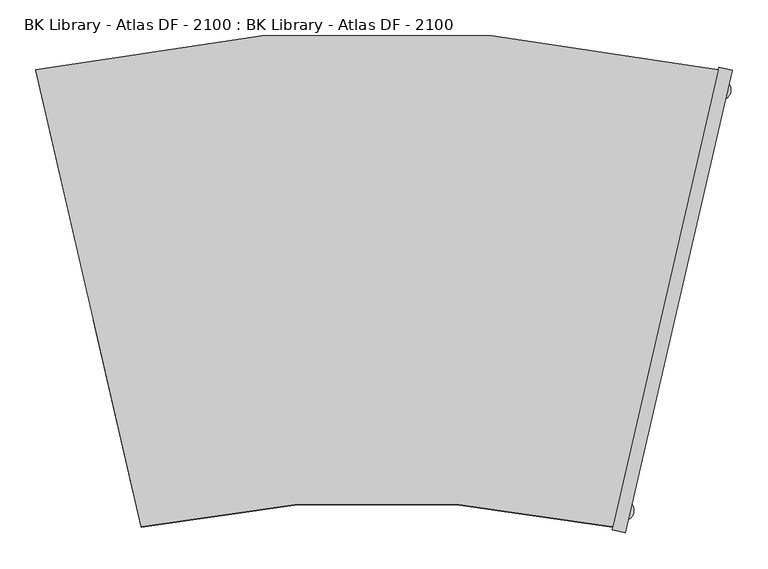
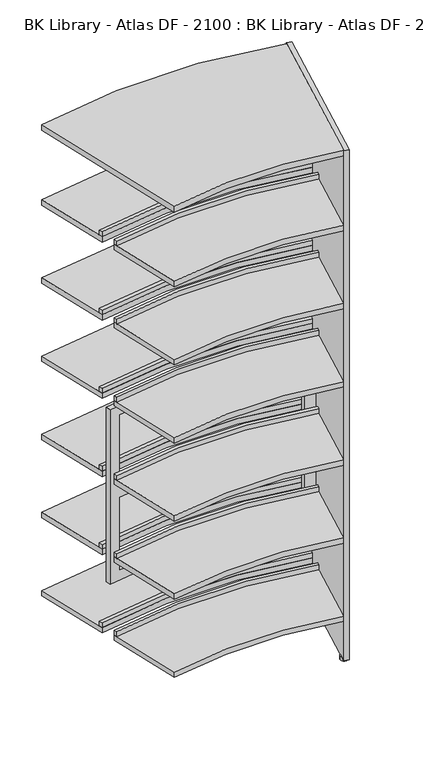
"""IFC4 building model written with IfcOpenShell, lengths in millimetres: furniture geometry, BK Library - Atlas DF - 2100 : BK Library - Atlas DF - 2100."""

from ifc_helpers import new_model, si_unit, point, frame, frame_2d, origin, origin_with_axes, place, context, project, spatial, polyline, circle_curve, trimmed, segment, composite_curve, outline, extrude, source, transform, mapped, element, save
from ifc_brep_helpers import plane_surface, cylinder_surface, revolved_surface, advanced_brep


def bk_library_atlas_df_2100_bk_library_atlas_df_2100_e4d77250(model_context):
    return source(origin(), model_context, "Body", "SolidModel", [
        extrude(outline(composite_curve([segment(trimmed(circle_curve(frame_2d((0.0, -1840.4430404)), 1557.6392973), [point((327.6944521, -317.663829))], [point((-327.6944521, -317.663829))], True, "CARTESIAN"), True, "CONTINUOUS"), segment(polyline([(-327.6944521, -317.663829), (-394.2058088, -29.2269986)]), True, "CONTINUOUS"), segment(trimmed(circle_curve(frame_2d((0.0, -1785.1487517)), 1799.627579), [point((-394.2058088, -29.2269986))], [point((394.2058088, -29.2269986))], False, "CARTESIAN"), True, "CONTINUOUS"), segment(polyline([(394.2058088, -29.2269986), (327.6944521, -317.663829)]), True, "CONTINUOUS")], self_intersect=False)), frame((0.0, 0.0, 1771.6999998), z_axis=(0.0, 0.0, 1.0), x_axis=(1.0, 0.0, 0.0)), (0.0, 0.0, 1.0), 22.0),
        extrude(outline(composite_curve([segment(trimmed(circle_curve(frame_2d((0.0, -1777.8812307)), 2148.52767), [point((-474.1962162, 317.663829))], [point((474.1962162, 317.663829))], False, "CARTESIAN"), True, "CONTINUOUS"), segment(polyline([(474.1962162, 317.663829), (407.6853202, 29.2289965)]), True, "CONTINUOUS"), segment(trimmed(circle_curve(frame_2d((0.0, -1798.2835703)), 1872.4341116), [point((407.6853202, 29.2289965))], [point((-407.6853202, 29.2289965))], True, "CARTESIAN"), True, "CONTINUOUS"), segment(polyline([(-407.6853202, 29.2289965), (-474.1962162, 317.663829)]), True, "CONTINUOUS")], self_intersect=False)), frame((0.0, 0.0, 1771.6999998), z_axis=(0.0, 0.0, 1.0), x_axis=(1.0, 0.0, 0.0)), (0.0, 0.0, 1.0), 22.0),
        extrude(outline(composite_curve([segment(trimmed(circle_curve(frame_2d((0.0, -1785.1487517)), 1799.627579), [point((-394.2058088, -29.2269986))], [point((394.2058088, -29.2269986))], False, "CARTESIAN"), True, "CONTINUOUS"), segment(polyline([(394.2058088, -29.2269986), (391.2848087, -41.8943694)]), True, "CONTINUOUS"), segment(trimmed(circle_curve(frame_2d((0.0, -1790.5831955)), 1791.9309172), [point((391.2848087, -41.8943694))], [point((-391.2848087, -41.8943694))], True, "CARTESIAN"), True, "CONTINUOUS"), segment(polyline([(-391.2848087, -41.8943694), (-394.2058088, -29.2269986)]), True, "CONTINUOUS")], self_intersect=False)), frame((0.0, 0.0, 1793.6999998), z_axis=(0.0, 0.0, 1.0), x_axis=(1.0, 0.0, 0.0)), (0.0, 0.0, 1.0), 20.0),
        extrude(outline(composite_curve([segment(trimmed(circle_curve(frame_2d((0.0, -1776.6858327)), 1864.3585062), [point((-410.605951, 41.8947656))], [point((410.605951, 41.8947656))], False, "CARTESIAN"), True, "CONTINUOUS"), segment(polyline([(410.605951, 41.8947656), (407.6853202, 29.2289965)]), True, "CONTINUOUS"), segment(trimmed(circle_curve(frame_2d((0.0, -1798.2835703)), 1872.4341116), [point((407.6853202, 29.2289965))], [point((-407.6853202, 29.2289965))], True, "CARTESIAN"), True, "CONTINUOUS"), segment(polyline([(-407.6853202, 29.2289965), (-410.605951, 41.8947656)]), True, "CONTINUOUS")], self_intersect=False)), frame((0.0, 0.0, 1793.6999998), z_axis=(0.0, 0.0, 1.0), x_axis=(1.0, 0.0, 0.0)), (0.0, 0.0, 1.0), 20.0),
        extrude(outline(composite_curve([segment(trimmed(circle_curve(frame_2d((0.0, -1777.8812307)), 2148.52767), [point((-474.1962162, 317.663829))], [point((474.1962162, 317.663829))], False, "CARTESIAN"), True, "CONTINUOUS"), segment(polyline([(474.1962162, 317.663829), (327.6944521, -317.663829)]), True, "CONTINUOUS"), segment(trimmed(circle_curve(frame_2d((0.0, -1840.4430404)), 1557.6392973), [point((327.6944521, -317.663829))], [point((-327.6944521, -317.663829))], True, "CARTESIAN"), True, "CONTINUOUS"), segment(polyline([(-327.6944521, -317.663829), (-474.1962162, 317.663829)]), True, "CONTINUOUS")], self_intersect=False)), frame((0.0, 0.0, 2077.6999998), z_axis=(0.0, 0.0, 1.0), x_axis=(1.0, 0.0, 0.0)), (0.0, 0.0, 1.0), 24.0),
        advanced_brep(
        [(-403.1922937, 9.7442892, 1106.1999998), (-398.6983746, -9.7442892, 1106.1999998), (398.6983746, -9.7442892, 1106.1999998), (403.1922937, 9.7442892, 1106.1999998), (-403.1922937, 9.7442892, 391.1999998), (403.1922937, 9.7442892, 391.1999998), (398.6983746, -9.7442892, 391.1999998), (-398.6983746, -9.7442892, 391.1999998), (359.7000463, -1.6061954, 1066.1999998), (359.7000463, -1.6061954, 768.6999998), (-359.7212176, -1.6103769, 768.6999998), (-359.7212176, -1.6103769, 1066.1999998), (-359.7212176, -1.6103769, 728.6999998), (359.7000463, -1.6061954, 728.6999998), (359.7000463, -1.6061954, 431.1999998), (-359.7212176, -1.6103769, 431.1999998), (359.7000463, 18.8192746, 768.6999998), (359.7000463, 18.8192746, 1066.1999998), (-359.7212176, 18.8151191, 1066.1999998), (-359.7212176, 18.8151191, 768.6999998), (359.7000463, 18.8192746, 728.6999998), (-359.7212176, 18.8151191, 728.6999998), (-359.7212176, 18.8151191, 431.1999998), (359.7000463, 18.8192746, 431.1999998)],
        [
            (0, 1),
            (1, 2, circle_curve(frame((0.0, -1822.824997, 1106.1999998), z_axis=(0.0, 0.0, -1.0), x_axis=(1.0, 0.0, 0.0)), 1856.4002927)),
            (2, 3),
            (3, 0, circle_curve(frame((0.0, -1813.8149651, 1106.1999998), z_axis=(0.0, 0.0, 1.0), x_axis=(1.0, 0.0, 0.0)), 1867.6007014)),
            (4, 5, circle_curve(frame((0.0, -1813.8149651, 391.1999998), z_axis=(0.0, 0.0, -1.0), x_axis=(1.0, 0.0, 0.0)), 1867.6007014)),
            (5, 6),
            (6, 7, circle_curve(frame((0.0, -1822.824997, 391.1999998), z_axis=(0.0, 0.0, 1.0), x_axis=(1.0, 0.0, 0.0)), 1856.4002927)),
            (7, 4),
            (0, 4),
            (7, 1),
            (2, 6),
            (5, 3),
            (8, 9),
            (9, 10, circle_curve(frame((0.0, -1822.824997, 768.6999998), z_axis=(0.0, 0.0, 1.0), x_axis=(1.0, 0.0, 0.0)), 1856.4002927)),
            (10, 11),
            (11, 8, circle_curve(frame((0.0, -1822.824997, 1066.1999998), z_axis=(0.0, 0.0, -1.0), x_axis=(1.0, 0.0, 0.0)), 1856.4002927)),
            (12, 13, circle_curve(frame((0.0, -1822.824997, 728.6999998), z_axis=(0.0, 0.0, -1.0), x_axis=(1.0, 0.0, 0.0)), 1856.4002927)),
            (13, 14),
            (14, 15, circle_curve(frame((0.0, -1822.824997, 431.1999998), z_axis=(0.0, 0.0, 1.0), x_axis=(1.0, 0.0, 0.0)), 1856.4002927)),
            (15, 12),
            (16, 17),
            (17, 18, circle_curve(frame((0.0, -1813.8149651, 1066.1999998), z_axis=(0.0, 0.0, 1.0), x_axis=(1.0, 0.0, 0.0)), 1867.6007014)),
            (18, 19),
            (19, 16, circle_curve(frame((0.0, -1813.8149651, 768.6999998), z_axis=(0.0, 0.0, -1.0), x_axis=(1.0, 0.0, 0.0)), 1867.6007014)),
            (20, 21, circle_curve(frame((0.0, -1813.8149651, 728.6999998), z_axis=(0.0, 0.0, 1.0), x_axis=(1.0, 0.0, 0.0)), 1867.6007014)),
            (21, 22),
            (22, 23, circle_curve(frame((0.0, -1813.8149651, 431.1999998), z_axis=(0.0, 0.0, -1.0), x_axis=(1.0, 0.0, 0.0)), 1867.6007014)),
            (23, 20),
            (16, 9),
            (8, 17),
            (11, 18),
            (10, 19),
            (20, 13),
            (12, 21),
            (15, 22),
            (14, 23),
        ],
        [
            plane_surface(frame((-326.7956683, -321.5615447, 1106.1999998), z_axis=(0.0, 0.0, 1.0), x_axis=(0.224695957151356, -0.9744289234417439, 0.0))),
            plane_surface(frame((-326.7956683, -321.5615447, 391.1999998), z_axis=(0.0, 0.0, -1.0), x_axis=(-0.224695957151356, 0.9744289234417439, 0.0))),
            plane_surface(frame((-403.1922937, 9.7442892, 1106.1999998), z_axis=(-0.9744289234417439, -0.224695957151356, 0.0), x_axis=(0.0, 0.0, -1.0))),
            plane_surface(frame((398.6983746, -9.7442892, 1106.1999998), z_axis=(0.974428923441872, -0.22469595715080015, 0.0), x_axis=(0.0, 0.0, -1.0))),
            revolved_surface(polyline([(1856.4002927, -1822.824997, 391.1999998), (1856.4002927, -1822.824997, 1106.1999998)]), (0.0, -1822.824997, 391.1999998), (0.0, 0.0, -1.0)),
            cylinder_surface(frame((0.0, -1813.8149651, 391.1999998), z_axis=(0.0, 0.0, 1.0), x_axis=(1.0, 0.0, 0.0)), 1867.6007014),
            plane_surface(frame((359.7000463, -114.4923923, 768.6999998), z_axis=(-1.0, 0.0, 0.0), x_axis=(0.0, 1.0, 0.0))),
            plane_surface(frame((359.7000463, -114.4923923, 1066.1999998), z_axis=(0.0, 0.0, -1.0), x_axis=(0.0, 1.0, 0.0))),
            plane_surface(frame((-359.7212176, -114.4923923, 1066.1999998), z_axis=(1.0, 0.0, 0.0), x_axis=(0.0, 1.0, 0.0))),
            plane_surface(frame((-359.7212176, -114.4923923, 768.6999998), z_axis=(0.0, 0.0, 1.0), x_axis=(0.0, 1.0, 0.0))),
            plane_surface(frame((359.7000463, -114.4923923, 728.6999998), z_axis=(0.0, 0.0, -1.0), x_axis=(0.0, 1.0, 0.0))),
            plane_surface(frame((-359.7212176, -114.4923923, 728.6999998), z_axis=(1.0, 0.0, 0.0), x_axis=(0.0, 1.0, 0.0))),
            plane_surface(frame((-359.7212176, -114.4923923, 431.1999998), z_axis=(0.0, 0.0, 1.0), x_axis=(0.0, 1.0, 0.0))),
            plane_surface(frame((359.7000463, -114.4923923, 431.1999998), z_axis=(-1.0, 0.0, 0.0), x_axis=(0.0, 1.0, 0.0))),
        ],
        [
            (0, [[1, 2, 3, 4]]),
            (1, [[5, 6, 7, 8]]),
            (2, [[-1, 9, -8, 10]]),
            (3, [[-3, 11, -6, 12]]),
            (4, [[-2, -10, -7, -11], [13, 14, 15, 16], [17, 18, 19, 20]]),
            (5, [[-4, -12, -5, -9], [21, 22, 23, 24], [25, 26, 27, 28]]),
            (6, [[29, -13, 30, -21]]),
            (7, [[-30, -16, 31, -22]]),
            (8, [[-31, -15, 32, -23]]),
            (9, [[-29, -24, -32, -14]]),
            (10, [[33, -17, 34, -25]]),
            (11, [[-34, -20, 35, -26]]),
            (12, [[-35, -19, 36, -27]]),
            (13, [[-33, -28, -36, -18]]),
        ],
    ),
        extrude(outline(composite_curve([segment(trimmed(circle_curve(frame_2d((0.0, -1840.4430404)), 1557.6392973), [point((327.6944521, -317.663829))], [point((-327.6944521, -317.663829))], True, "CARTESIAN"), True, "CONTINUOUS"), segment(polyline([(-327.6944521, -317.663829), (-394.2058088, -29.2269986)]), True, "CONTINUOUS"), segment(trimmed(circle_curve(frame_2d((0.0, -1785.1487517)), 1799.627579), [point((-394.2058088, -29.2269986))], [point((394.2058088, -29.2269986))], False, "CARTESIAN"), True, "CONTINUOUS"), segment(polyline([(394.2058088, -29.2269986), (327.6944521, -317.663829)]), True, "CONTINUOUS")], self_intersect=False)), frame((0.0, 0.0, 171.6999998), z_axis=(0.0, 0.0, 1.0), x_axis=(1.0, 0.0, 0.0)), (0.0, 0.0, 1.0), 22.0),
        extrude(outline(composite_curve([segment(trimmed(circle_curve(frame_2d((0.0, -1777.8812307)), 2148.52767), [point((-474.1962162, 317.663829))], [point((474.1962162, 317.663829))], False, "CARTESIAN"), True, "CONTINUOUS"), segment(polyline([(474.1962162, 317.663829), (407.6853202, 29.2289965)]), True, "CONTINUOUS"), segment(trimmed(circle_curve(frame_2d((0.0, -1798.2835703)), 1872.4341116), [point((407.6853202, 29.2289965))], [point((-407.6853202, 29.2289965))], True, "CARTESIAN"), True, "CONTINUOUS"), segment(polyline([(-407.6853202, 29.2289965), (-474.1962162, 317.663829)]), True, "CONTINUOUS")], self_intersect=False)), frame((0.0, 0.0, 171.6999998), z_axis=(0.0, 0.0, 1.0), x_axis=(1.0, 0.0, 0.0)), (0.0, 0.0, 1.0), 22.0),
        extrude(outline(composite_curve([segment(trimmed(circle_curve(frame_2d((0.0, -1840.4430404)), 1557.6392973), [point((327.6944521, -317.663829))], [point((-327.6944521, -317.663829))], True, "CARTESIAN"), True, "CONTINUOUS"), segment(polyline([(-327.6944521, -317.663829), (-394.2058088, -29.2269986)]), True, "CONTINUOUS"), segment(trimmed(circle_curve(frame_2d((0.0, -1785.1487517)), 1799.627579), [point((-394.2058088, -29.2269986))], [point((394.2058088, -29.2269986))], False, "CARTESIAN"), True, "CONTINUOUS"), segment(polyline([(394.2058088, -29.2269986), (327.6944521, -317.663829)]), True, "CONTINUOUS")], self_intersect=False)), frame((0.0, 0.0, 491.6999998), z_axis=(0.0, 0.0, 1.0), x_axis=(1.0, 0.0, 0.0)), (0.0, 0.0, 1.0), 22.0),
        extrude(outline(composite_curve([segment(trimmed(circle_curve(frame_2d((0.0, -1777.8812307)), 2148.52767), [point((-474.1962162, 317.663829))], [point((474.1962162, 317.663829))], False, "CARTESIAN"), True, "CONTINUOUS"), segment(polyline([(474.1962162, 317.663829), (407.6853202, 29.2289965)]), True, "CONTINUOUS"), segment(trimmed(circle_curve(frame_2d((0.0, -1798.2835703)), 1872.4341116), [point((407.6853202, 29.2289965))], [point((-407.6853202, 29.2289965))], True, "CARTESIAN"), True, "CONTINUOUS"), segment(polyline([(-407.6853202, 29.2289965), (-474.1962162, 317.663829)]), True, "CONTINUOUS")], self_intersect=False)), frame((0.0, 0.0, 491.6999998), z_axis=(0.0, 0.0, 1.0), x_axis=(1.0, 0.0, 0.0)), (0.0, 0.0, 1.0), 22.0),
        extrude(outline(composite_curve([segment(trimmed(circle_curve(frame_2d((0.0, -1840.4430404)), 1557.6392973), [point((327.6944521, -317.663829))], [point((-327.6944521, -317.663829))], True, "CARTESIAN"), True, "CONTINUOUS"), segment(polyline([(-327.6944521, -317.663829), (-394.2058088, -29.2269986)]), True, "CONTINUOUS"), segment(trimmed(circle_curve(frame_2d((0.0, -1785.1487517)), 1799.627579), [point((-394.2058088, -29.2269986))], [point((394.2058088, -29.2269986))], False, "CARTESIAN"), True, "CONTINUOUS"), segment(polyline([(394.2058088, -29.2269986), (327.6944521, -317.663829)]), True, "CONTINUOUS")], self_intersect=False)), frame((0.0, 0.0, 811.6999998), z_axis=(0.0, 0.0, 1.0), x_axis=(1.0, 0.0, 0.0)), (0.0, 0.0, 1.0), 22.0),
        extrude(outline(composite_curve([segment(trimmed(circle_curve(frame_2d((0.0, -1777.8812307)), 2148.52767), [point((-474.1962162, 317.663829))], [point((474.1962162, 317.663829))], False, "CARTESIAN"), True, "CONTINUOUS"), segment(polyline([(474.1962162, 317.663829), (407.6853202, 29.2289965)]), True, "CONTINUOUS"), segment(trimmed(circle_curve(frame_2d((0.0, -1798.2835703)), 1872.4341116), [point((407.6853202, 29.2289965))], [point((-407.6853202, 29.2289965))], True, "CARTESIAN"), True, "CONTINUOUS"), segment(polyline([(-407.6853202, 29.2289965), (-474.1962162, 317.663829)]), True, "CONTINUOUS")], self_intersect=False)), frame((0.0, 0.0, 811.6999998), z_axis=(0.0, 0.0, 1.0), x_axis=(1.0, 0.0, 0.0)), (0.0, 0.0, 1.0), 22.0),
        extrude(outline(composite_curve([segment(trimmed(circle_curve(frame_2d((0.0, -1840.4430404)), 1557.6392973), [point((327.6944521, -317.663829))], [point((-327.6944521, -317.663829))], True, "CARTESIAN"), True, "CONTINUOUS"), segment(polyline([(-327.6944521, -317.663829), (-394.2058088, -29.2269986)]), True, "CONTINUOUS"), segment(trimmed(circle_curve(frame_2d((0.0, -1785.1487517)), 1799.627579), [point((-394.2058088, -29.2269986))], [point((394.2058088, -29.2269986))], False, "CARTESIAN"), True, "CONTINUOUS"), segment(polyline([(394.2058088, -29.2269986), (327.6944521, -317.663829)]), True, "CONTINUOUS")], self_intersect=False)), frame((0.0, 0.0, 1131.6999998), z_axis=(0.0, 0.0, 1.0), x_axis=(1.0, 0.0, 0.0)), (0.0, 0.0, 1.0), 22.0),
        extrude(outline(composite_curve([segment(trimmed(circle_curve(frame_2d((0.0, -1777.8812307)), 2148.52767), [point((-474.1962162, 317.663829))], [point((474.1962162, 317.663829))], False, "CARTESIAN"), True, "CONTINUOUS"), segment(polyline([(474.1962162, 317.663829), (407.6853202, 29.2289965)]), True, "CONTINUOUS"), segment(trimmed(circle_curve(frame_2d((0.0, -1798.2835703)), 1872.4341116), [point((407.6853202, 29.2289965))], [point((-407.6853202, 29.2289965))], True, "CARTESIAN"), True, "CONTINUOUS"), segment(polyline([(-407.6853202, 29.2289965), (-474.1962162, 317.663829)]), True, "CONTINUOUS")], self_intersect=False)), frame((0.0, 0.0, 1131.6999998), z_axis=(0.0, 0.0, 1.0), x_axis=(1.0, 0.0, 0.0)), (0.0, 0.0, 1.0), 22.0),
        extrude(outline(composite_curve([segment(trimmed(circle_curve(frame_2d((0.0, -1840.4430404)), 1557.6392973), [point((327.6944521, -317.663829))], [point((-327.6944521, -317.663829))], True, "CARTESIAN"), True, "CONTINUOUS"), segment(polyline([(-327.6944521, -317.663829), (-394.2058088, -29.2269986)]), True, "CONTINUOUS"), segment(trimmed(circle_curve(frame_2d((0.0, -1785.1487517)), 1799.627579), [point((-394.2058088, -29.2269986))], [point((394.2058088, -29.2269986))], False, "CARTESIAN"), True, "CONTINUOUS"), segment(polyline([(394.2058088, -29.2269986), (327.6944521, -317.663829)]), True, "CONTINUOUS")], self_intersect=False)), frame((0.0, 0.0, 1451.6999998), z_axis=(0.0, 0.0, 1.0), x_axis=(1.0, 0.0, 0.0)), (0.0, 0.0, 1.0), 22.0),
        extrude(outline(composite_curve([segment(trimmed(circle_curve(frame_2d((0.0, -1777.8812307)), 2148.52767), [point((-474.1962162, 317.663829))], [point((474.1962162, 317.663829))], False, "CARTESIAN"), True, "CONTINUOUS"), segment(polyline([(474.1962162, 317.663829), (407.6853202, 29.2289965)]), True, "CONTINUOUS"), segment(trimmed(circle_curve(frame_2d((0.0, -1798.2835703)), 1872.4341116), [point((407.6853202, 29.2289965))], [point((-407.6853202, 29.2289965))], True, "CARTESIAN"), True, "CONTINUOUS"), segment(polyline([(-407.6853202, 29.2289965), (-474.1962162, 317.663829)]), True, "CONTINUOUS")], self_intersect=False)), frame((0.0, 0.0, 1451.6999998), z_axis=(0.0, 0.0, 1.0), x_axis=(1.0, 0.0, 0.0)), (0.0, 0.0, 1.0), 22.0),
        extrude(outline(composite_curve([segment(trimmed(circle_curve(frame_2d((0.0, -1785.1487517)), 1799.627579), [point((-394.2058088, -29.2269986))], [point((394.2058088, -29.2269986))], False, "CARTESIAN"), True, "CONTINUOUS"), segment(polyline([(394.2058088, -29.2269986), (391.2848087, -41.8943694)]), True, "CONTINUOUS"), segment(trimmed(circle_curve(frame_2d((0.0, -1790.5831955)), 1791.9309172), [point((391.2848087, -41.8943694))], [point((-391.2848087, -41.8943694))], True, "CARTESIAN"), True, "CONTINUOUS"), segment(polyline([(-391.2848087, -41.8943694), (-394.2058088, -29.2269986)]), True, "CONTINUOUS")], self_intersect=False)), frame((0.0, 0.0, 193.6999998), z_axis=(0.0, 0.0, 1.0), x_axis=(1.0, 0.0, 0.0)), (0.0, 0.0, 1.0), 20.0),
        extrude(outline(composite_curve([segment(trimmed(circle_curve(frame_2d((0.0, -1776.6858327)), 1864.3585062), [point((-410.605951, 41.8947656))], [point((410.605951, 41.8947656))], False, "CARTESIAN"), True, "CONTINUOUS"), segment(polyline([(410.605951, 41.8947656), (407.6853202, 29.2289965)]), True, "CONTINUOUS"), segment(trimmed(circle_curve(frame_2d((0.0, -1798.2835703)), 1872.4341116), [point((407.6853202, 29.2289965))], [point((-407.6853202, 29.2289965))], True, "CARTESIAN"), True, "CONTINUOUS"), segment(polyline([(-407.6853202, 29.2289965), (-410.605951, 41.8947656)]), True, "CONTINUOUS")], self_intersect=False)), frame((0.0, 0.0, 193.6999998), z_axis=(0.0, 0.0, 1.0), x_axis=(1.0, 0.0, 0.0)), (0.0, 0.0, 1.0), 20.0),
        extrude(outline(composite_curve([segment(trimmed(circle_curve(frame_2d((0.0, -1785.1487517)), 1799.627579), [point((-394.2058088, -29.2269986))], [point((394.2058088, -29.2269986))], False, "CARTESIAN"), True, "CONTINUOUS"), segment(polyline([(394.2058088, -29.2269986), (391.2848087, -41.8943694)]), True, "CONTINUOUS"), segment(trimmed(circle_curve(frame_2d((0.0, -1790.5831955)), 1791.9309172), [point((391.2848087, -41.8943694))], [point((-391.2848087, -41.8943694))], True, "CARTESIAN"), True, "CONTINUOUS"), segment(polyline([(-391.2848087, -41.8943694), (-394.2058088, -29.2269986)]), True, "CONTINUOUS")], self_intersect=False)), frame((0.0, 0.0, 513.6999998), z_axis=(0.0, 0.0, 1.0), x_axis=(1.0, 0.0, 0.0)), (0.0, 0.0, 1.0), 20.0),
        extrude(outline(composite_curve([segment(trimmed(circle_curve(frame_2d((0.0, -1776.6858327)), 1864.3585062), [point((-410.605951, 41.8947656))], [point((410.605951, 41.8947656))], False, "CARTESIAN"), True, "CONTINUOUS"), segment(polyline([(410.605951, 41.8947656), (407.6853202, 29.2289965)]), True, "CONTINUOUS"), segment(trimmed(circle_curve(frame_2d((0.0, -1798.2835703)), 1872.4341116), [point((407.6853202, 29.2289965))], [point((-407.6853202, 29.2289965))], True, "CARTESIAN"), True, "CONTINUOUS"), segment(polyline([(-407.6853202, 29.2289965), (-410.605951, 41.8947656)]), True, "CONTINUOUS")], self_intersect=False)), frame((0.0, 0.0, 513.6999998), z_axis=(0.0, 0.0, 1.0), x_axis=(1.0, 0.0, 0.0)), (0.0, 0.0, 1.0), 20.0),
        extrude(outline(composite_curve([segment(trimmed(circle_curve(frame_2d((0.0, -1785.1487517)), 1799.627579), [point((-394.2058088, -29.2269986))], [point((394.2058088, -29.2269986))], False, "CARTESIAN"), True, "CONTINUOUS"), segment(polyline([(394.2058088, -29.2269986), (391.2848087, -41.8943694)]), True, "CONTINUOUS"), segment(trimmed(circle_curve(frame_2d((0.0, -1790.5831955)), 1791.9309172), [point((391.2848087, -41.8943694))], [point((-391.2848087, -41.8943694))], True, "CARTESIAN"), True, "CONTINUOUS"), segment(polyline([(-391.2848087, -41.8943694), (-394.2058088, -29.2269986)]), True, "CONTINUOUS")], self_intersect=False)), frame((0.0, 0.0, 833.6999998), z_axis=(0.0, 0.0, 1.0), x_axis=(1.0, 0.0, 0.0)), (0.0, 0.0, 1.0), 20.0),
        extrude(outline(composite_curve([segment(trimmed(circle_curve(frame_2d((0.0, -1776.6858327)), 1864.3585062), [point((-410.605951, 41.8947656))], [point((410.605951, 41.8947656))], False, "CARTESIAN"), True, "CONTINUOUS"), segment(polyline([(410.605951, 41.8947656), (407.6853202, 29.2289965)]), True, "CONTINUOUS"), segment(trimmed(circle_curve(frame_2d((0.0, -1798.2835703)), 1872.4341116), [point((407.6853202, 29.2289965))], [point((-407.6853202, 29.2289965))], True, "CARTESIAN"), True, "CONTINUOUS"), segment(polyline([(-407.6853202, 29.2289965), (-410.605951, 41.8947656)]), True, "CONTINUOUS")], self_intersect=False)), frame((0.0, 0.0, 833.6999998), z_axis=(0.0, 0.0, 1.0), x_axis=(1.0, 0.0, 0.0)), (0.0, 0.0, 1.0), 20.0),
        extrude(outline(composite_curve([segment(trimmed(circle_curve(frame_2d((0.0, -1785.1487517)), 1799.627579), [point((-394.2058088, -29.2269986))], [point((394.2058088, -29.2269986))], False, "CARTESIAN"), True, "CONTINUOUS"), segment(polyline([(394.2058088, -29.2269986), (391.2848087, -41.8943694)]), True, "CONTINUOUS"), segment(trimmed(circle_curve(frame_2d((0.0, -1790.5831955)), 1791.9309172), [point((391.2848087, -41.8943694))], [point((-391.2848087, -41.8943694))], True, "CARTESIAN"), True, "CONTINUOUS"), segment(polyline([(-391.2848087, -41.8943694), (-394.2058088, -29.2269986)]), True, "CONTINUOUS")], self_intersect=False)), frame((0.0, 0.0, 1153.6999998), z_axis=(0.0, 0.0, 1.0), x_axis=(1.0, 0.0, 0.0)), (0.0, 0.0, 1.0), 20.0),
        extrude(outline(composite_curve([segment(trimmed(circle_curve(frame_2d((0.0, -1776.6858327)), 1864.3585062), [point((-410.605951, 41.8947656))], [point((410.605951, 41.8947656))], False, "CARTESIAN"), True, "CONTINUOUS"), segment(polyline([(410.605951, 41.8947656), (407.6853202, 29.2289965)]), True, "CONTINUOUS"), segment(trimmed(circle_curve(frame_2d((0.0, -1798.2835703)), 1872.4341116), [point((407.6853202, 29.2289965))], [point((-407.6853202, 29.2289965))], True, "CARTESIAN"), True, "CONTINUOUS"), segment(polyline([(-407.6853202, 29.2289965), (-410.605951, 41.8947656)]), True, "CONTINUOUS")], self_intersect=False)), frame((0.0, 0.0, 1153.6999998), z_axis=(0.0, 0.0, 1.0), x_axis=(1.0, 0.0, 0.0)), (0.0, 0.0, 1.0), 20.0),
        extrude(outline(composite_curve([segment(trimmed(circle_curve(frame_2d((0.0, -1785.1487517)), 1799.627579), [point((-394.2058088, -29.2269986))], [point((394.2058088, -29.2269986))], False, "CARTESIAN"), True, "CONTINUOUS"), segment(polyline([(394.2058088, -29.2269986), (391.2848087, -41.8943694)]), True, "CONTINUOUS"), segment(trimmed(circle_curve(frame_2d((0.0, -1790.5831955)), 1791.9309172), [point((391.2848087, -41.8943694))], [point((-391.2848087, -41.8943694))], True, "CARTESIAN"), True, "CONTINUOUS"), segment(polyline([(-391.2848087, -41.8943694), (-394.2058088, -29.2269986)]), True, "CONTINUOUS")], self_intersect=False)), frame((0.0, 0.0, 1473.6999998), z_axis=(0.0, 0.0, 1.0), x_axis=(1.0, 0.0, 0.0)), (0.0, 0.0, 1.0), 20.0),
        extrude(outline(composite_curve([segment(trimmed(circle_curve(frame_2d((0.0, -1776.6858327)), 1864.3585062), [point((-410.605951, 41.8947656))], [point((410.605951, 41.8947656))], False, "CARTESIAN"), True, "CONTINUOUS"), segment(polyline([(410.605951, 41.8947656), (407.6853202, 29.2289965)]), True, "CONTINUOUS"), segment(trimmed(circle_curve(frame_2d((0.0, -1798.2835703)), 1872.4341116), [point((407.6853202, 29.2289965))], [point((-407.6853202, 29.2289965))], True, "CARTESIAN"), True, "CONTINUOUS"), segment(polyline([(-407.6853202, 29.2289965), (-410.605951, 41.8947656)]), True, "CONTINUOUS")], self_intersect=False)), frame((0.0, 0.0, 1473.6999998), z_axis=(0.0, 0.0, 1.0), x_axis=(1.0, 0.0, 0.0)), (0.0, 0.0, 1.0), 20.0),
        extrude(outline(polyline([(475.095, 321.5615447), (493.6091495, 317.2923215), (345.3098178, -325.8307679), (326.7956683, -321.5615447), (475.095, 321.5615447)])), frame((0.0, 0.0, 13.6999998), z_axis=(0.0, 0.0, 1.0), x_axis=(1.0, 0.0, 0.0)), (0.0, 0.0, 1.0), 2088.0),
        extrude(outline(composite_curve([segment(trimmed(circle_curve(frame_2d((477.608406, 290.1883722)), 14.4994573), [point((492.1078633, 290.1883722))], [point((463.1089486, 290.1883722))], False, "CARTESIAN"), True, "CONTINUOUS"), segment(trimmed(circle_curve(frame_2d((477.608406, 290.1883722)), 14.4994573), [point((463.1089486, 290.1883722))], [point((492.1078633, 290.1883722))], False, "CARTESIAN"), True, "CONTINUOUS")], self_intersect=False)), origin_with_axes(), (0.0, 0.0, 1.0), 13.6999998),
        extrude(outline(composite_curve([segment(trimmed(circle_curve(frame_2d((342.7923392, -294.4590973)), 14.4994573), [point((357.2917965, -294.4590973))], [point((328.2928818, -294.4590973))], False, "CARTESIAN"), True, "CONTINUOUS"), segment(trimmed(circle_curve(frame_2d((342.7923392, -294.4590973)), 14.4994573), [point((328.2928818, -294.4590973))], [point((357.2917965, -294.4590973))], False, "CARTESIAN"), True, "CONTINUOUS")], self_intersect=False)), origin_with_axes(), (0.0, 0.0, 1.0), 13.6999998),
    ])


if __name__ == "__main__":
    model = new_model("IFC4")
    model_context = context("Model", 3, world=origin())
    ifc_project = project(units=[si_unit("LENGTHUNIT", "METRE", prefix="MILLI")], contexts=[model_context])
    site = spatial("IfcSite", under=ifc_project)
    building = spatial("IfcBuilding", under=site)
    placement = place(None, origin())
    bk_library_atlas_df_2100_bk_library_atlas_df_2100_shape = bk_library_atlas_df_2100_bk_library_atlas_df_2100_e4d77250(model_context)
    element("IfcFurniture", 1, ObjectType="BK Library - Atlas DF - 2100 : BK Library - Atlas DF - 2100", at=placement, inside=building, context=model_context, shape_type="MappedRepresentation", body=[
        mapped(bk_library_atlas_df_2100_bk_library_atlas_df_2100_shape, transform((0.0, 0.0, 0.0), x_axis=(1.0, 0.0, 0.0), y_axis=(0.0, 1.0, 0.0), z_axis=(0.0, 0.0, 1.0))),
    ])
    save(model, "model.ifc")
